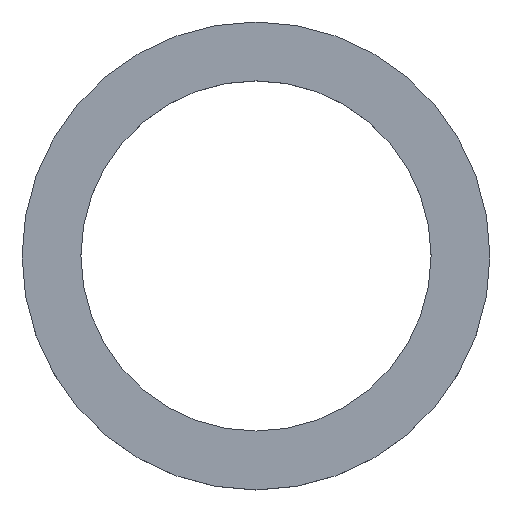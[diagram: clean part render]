
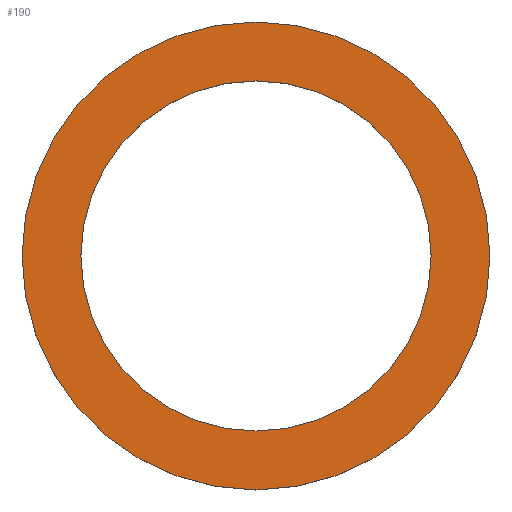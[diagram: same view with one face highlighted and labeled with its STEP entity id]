
A CAD part, top view. The second image highlights one B-rep face of the part: STEP entity #190.
In plain terms, the highlighted planar face has unit normal (0, 0, 1).
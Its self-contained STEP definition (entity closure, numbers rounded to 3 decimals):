
#24 = VERTEX_POINT('',#25);
#25 = CARTESIAN_POINT('',(155.,0.,15.5));
#32 = CYLINDRICAL_SURFACE('',#33,155.);
#33 = AXIS2_PLACEMENT_3D('',#34,#35,#36);
#34 = CARTESIAN_POINT('',(0.,0.,-15.5));
#35 = DIRECTION('',(-0.,-0.,-1.));
#36 = DIRECTION('',(1.,0.,0.));
#51 = EDGE_CURVE('',#24,#24,#52,.T.);
#52 = SURFACE_CURVE('',#53,(#58,#65),.PCURVE_S1.);
#53 = CIRCLE('',#54,155.);
#54 = AXIS2_PLACEMENT_3D('',#55,#56,#57);
#55 = CARTESIAN_POINT('',(0.,0.,15.5));
#56 = DIRECTION('',(0.,0.,1.));
#57 = DIRECTION('',(1.,0.,0.));
#58 = PCURVE('',#32,#59);
#59 = DEFINITIONAL_REPRESENTATION('',(#60),#64);
#60 = LINE('',#61,#62);
#61 = CARTESIAN_POINT('',(-0.,-31.));
#62 = VECTOR('',#63,1.);
#63 = DIRECTION('',(-1.,0.));
#64 = ( GEOMETRIC_REPRESENTATION_CONTEXT(2) 
PARAMETRIC_REPRESENTATION_CONTEXT() REPRESENTATION_CONTEXT('2D SPACE',''
  ) );
#65 = PCURVE('',#66,#71);
#66 = PLANE('',#67);
#67 = AXIS2_PLACEMENT_3D('',#68,#69,#70);
#68 = CARTESIAN_POINT('',(0.,0.,15.5));
#69 = DIRECTION('',(0.,0.,1.));
#70 = DIRECTION('',(1.,0.,-0.));
#71 = DEFINITIONAL_REPRESENTATION('',(#72),#76);
#72 = CIRCLE('',#73,155.);
#73 = AXIS2_PLACEMENT_2D('',#74,#75);
#74 = CARTESIAN_POINT('',(0.,0.));
#75 = DIRECTION('',(1.,0.));
#76 = ( GEOMETRIC_REPRESENTATION_CONTEXT(2) 
PARAMETRIC_REPRESENTATION_CONTEXT() REPRESENTATION_CONTEXT('2D SPACE',''
  ) );
#112 = VERTEX_POINT('',#113);
#113 = CARTESIAN_POINT('',(116.,0.,15.5));
#120 = CYLINDRICAL_SURFACE('',#121,116.);
#121 = AXIS2_PLACEMENT_3D('',#122,#123,#124);
#122 = CARTESIAN_POINT('',(0.,0.,-15.5)
  );
#123 = DIRECTION('',(-0.,-0.,-1.));
#124 = DIRECTION('',(1.,0.,0.));
#139 = EDGE_CURVE('',#112,#112,#140,.T.);
#140 = SURFACE_CURVE('',#141,(#146,#153),.PCURVE_S1.);
#141 = CIRCLE('',#142,116.);
#142 = AXIS2_PLACEMENT_3D('',#143,#144,#145);
#143 = CARTESIAN_POINT('',(0.,0.,15.5));
#144 = DIRECTION('',(0.,0.,1.));
#145 = DIRECTION('',(1.,0.,0.));
#146 = PCURVE('',#120,#147);
#147 = DEFINITIONAL_REPRESENTATION('',(#148),#152);
#148 = LINE('',#149,#150);
#149 = CARTESIAN_POINT('',(-0.,-31.));
#150 = VECTOR('',#151,1.);
#151 = DIRECTION('',(-1.,0.));
#152 = ( GEOMETRIC_REPRESENTATION_CONTEXT(2) 
PARAMETRIC_REPRESENTATION_CONTEXT() REPRESENTATION_CONTEXT('2D SPACE',''
  ) );
#153 = PCURVE('',#66,#154);
#154 = DEFINITIONAL_REPRESENTATION('',(#155),#159);
#155 = CIRCLE('',#156,116.);
#156 = AXIS2_PLACEMENT_2D('',#157,#158);
#157 = CARTESIAN_POINT('',(0.,0.));
#158 = DIRECTION('',(1.,0.));
#159 = ( GEOMETRIC_REPRESENTATION_CONTEXT(2) 
PARAMETRIC_REPRESENTATION_CONTEXT() REPRESENTATION_CONTEXT('2D SPACE',''
  ) );
#190 = ADVANCED_FACE('',(#191,#194),#66,.T.);
#191 = FACE_BOUND('',#192,.T.);
#192 = EDGE_LOOP('',(#193));
#193 = ORIENTED_EDGE('',*,*,#51,.T.);
#194 = FACE_BOUND('',#195,.T.);
#195 = EDGE_LOOP('',(#196));
#196 = ORIENTED_EDGE('',*,*,#139,.F.);
